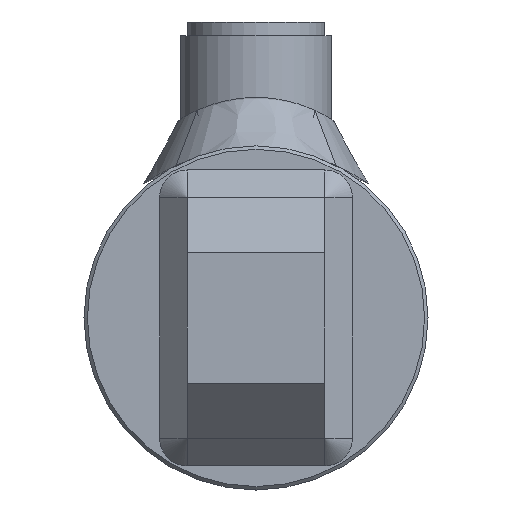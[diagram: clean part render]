
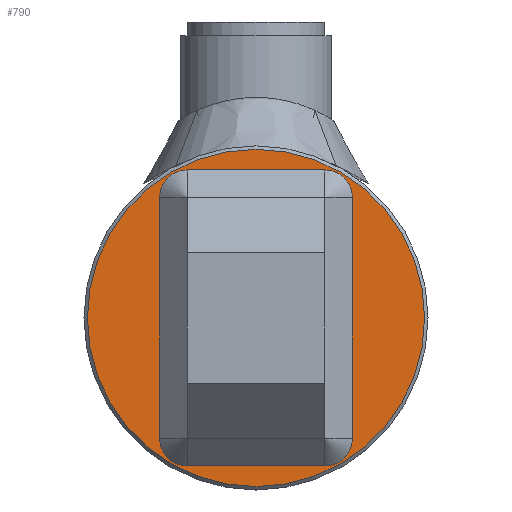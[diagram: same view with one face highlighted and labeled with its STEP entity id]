
A CAD part, left-side view. The second image highlights one B-rep face of the part: STEP entity #790.
In plain terms, the highlighted planar face has unit normal (-1, 0, 0).
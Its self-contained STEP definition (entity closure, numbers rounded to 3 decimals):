
#790 = ADVANCED_FACE( '', ( #1434 ), #1435, .T. );
#1434 = FACE_OUTER_BOUND( '', #2378, .T. );
#1435 = PLANE( '', #2379 );
#2378 = EDGE_LOOP( '', ( #5719 ) );
#2379 = AXIS2_PLACEMENT_3D( '', #5720, #5721, #5722 );
#5719 = ORIENTED_EDGE( '', *, *, #7163, .T. );
#5720 = CARTESIAN_POINT( '', ( -10., 0., 0. ) );
#5721 = DIRECTION( '', ( -1., 0., 0. ) );
#5722 = DIRECTION( '', ( 0., -1., 0. ) );
#7163 = EDGE_CURVE( '', #8010, #8010, #8011, .T. );
#8010 = VERTEX_POINT( '', #8825 );
#8011 = CIRCLE( '', #8826, 24.5 );
#8825 = CARTESIAN_POINT( '', ( -10., -24.5, 0. ) );
#8826 = AXIS2_PLACEMENT_3D( '', #10795, #10796, #10797 );
#10795 = CARTESIAN_POINT( '', ( -10., 0., 0. ) );
#10796 = DIRECTION( '', ( -1., 0., 0. ) );
#10797 = DIRECTION( '', ( 0., -1., 0. ) );
